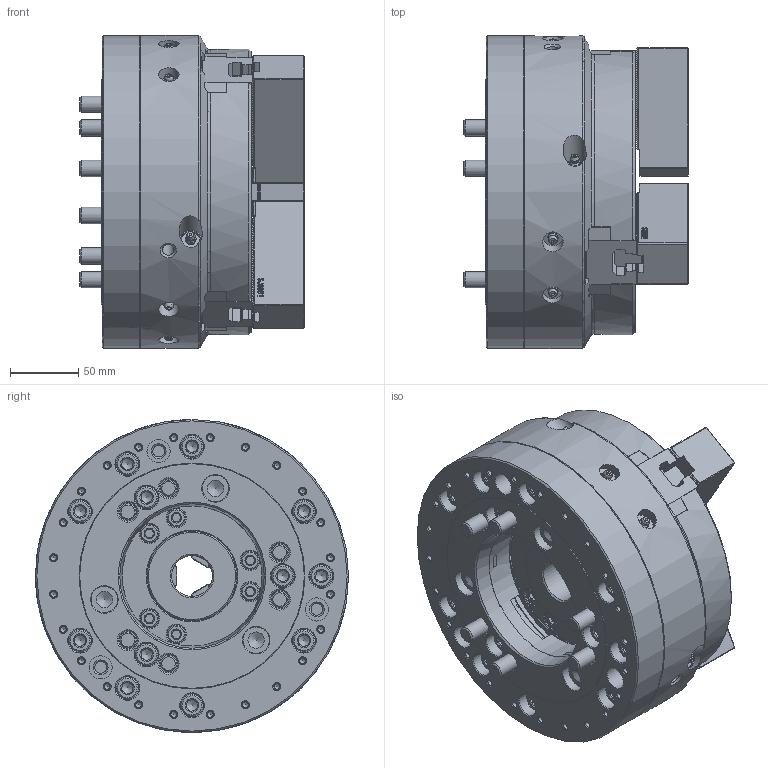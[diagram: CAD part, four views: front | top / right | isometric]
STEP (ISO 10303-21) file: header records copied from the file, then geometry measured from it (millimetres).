
FILE_DESCRIPTION (( 'STEP AP214' ), '1' );
FILE_NAME ('DT1_HOH-208_OUTSIDE_VIEW_HUL.STEP', '2024-05-09T06:48:23', ( '' ), ( '' ), 'SwSTEP 2.0', 'SolidWorks 2022', '' );
FILE_SCHEMA (( 'AUTOMOTIVE_DESIGN' ));
Length unit declared in the file: millimetre
Products named in the file (9): DT1_HOH-208_M12x110^DT1_HOH-208_ﾃﾞﾌｫﾙﾄ; DT1_HOH-208_M12x30^DT1_HOH-208_ﾃﾞﾌｫﾙﾄ; DT1_HOH-208_COVER^DT1_HOH-208_ﾃﾞﾌｫﾙﾄ; DT1_HOH-208_OUTSIDE_VIEW_HUL; DT1_HOH-208_M5x10^DT1_HOH-208_ﾃﾞﾌｫﾙﾄ; DT1_HOH-208_BASE^DT1_HOH-208_ﾃﾞﾌｫﾙﾄ; DT1_HOH-208_TNUT^DT1_HOH-208_ﾃﾞﾌｫﾙﾄ; DT1_HOH-208_DRAWNUT^DT1_HOH-208_ﾃﾞﾌｫﾙﾄ; DT1_HOH-208_SOFTJAW^DT1_HOH-208_ﾃﾞﾌｫﾙﾄ
Assembly tree (24 placements, depth 2):
  DT1_HOH-208_OUTSIDE_VIEW_HUL
    DT1_HOH-208_SOFTJAW^DT1_HOH-208_ﾃﾞﾌｫﾙﾄ  x3
    DT1_HOH-208_TNUT^DT1_HOH-208_ﾃﾞﾌｫﾙﾄ  x3
    DT1_HOH-208_DRAWNUT^DT1_HOH-208_ﾃﾞﾌｫﾙﾄ
    DT1_HOH-208_COVER^DT1_HOH-208_ﾃﾞﾌｫﾙﾄ
    DT1_HOH-208_BASE^DT1_HOH-208_ﾃﾞﾌｫﾙﾄ
    DT1_HOH-208_M5x10^DT1_HOH-208_ﾃﾞﾌｫﾙﾄ  x3
    DT1_HOH-208_M12x30^DT1_HOH-208_ﾃﾞﾌｫﾙﾄ  x6
    DT1_HOH-208_M12x110^DT1_HOH-208_ﾃﾞﾌｫﾙﾄ  x6
Bounding box: 165 x 230 x 230 mm (x, y, z)
Volume: 4073148.1 mm3; surface area: 452715.4 mm2
Topology: 24 solids, 30 shells, 4463 faces, 12356 edges, 8135 vertices
Faces by surface type: plane 3040, cylinder 589, bspline 454, cone 326, torus 39, sphere 15
Full cylindrical faces by diameter (mm): 2 x3, 4.2 x3, 4.3 x24, 5 x3, 5.5 x3, 8.6 x5, 9.5 x3, 10 x3, 10.2 x6, 12 x12, 13 x6, 13.27 x6, 13.5 x12, 14 x6, 15 x6, 16 x3, 16.27 x12, 17 x18, 18.27 x12, 19 x6, 19.46 x3, 20 x6, 30 x1, 52 x1, 56 x2, 61 x1, 64.8 x2, 66 x2, 72 x2, 103 x1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
Entity records: 106387 total; most frequent: CARTESIAN_POINT 33169, ORIENTED_EDGE 15798, DIRECTION 13000, EDGE_CURVE 7899, LINE 5756, VECTOR 5756, VERTEX_POINT 5381, AXIS2_PLACEMENT_3D 3622
